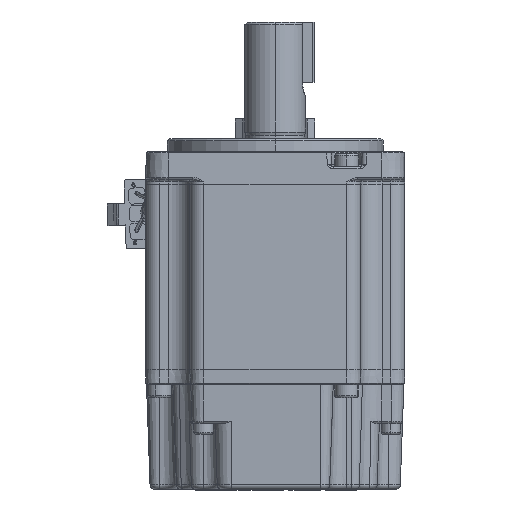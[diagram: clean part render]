
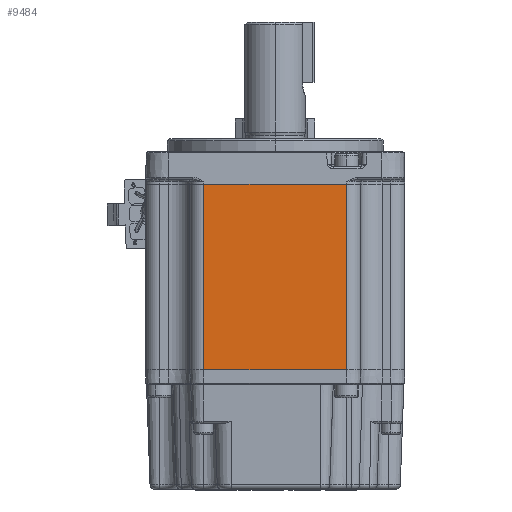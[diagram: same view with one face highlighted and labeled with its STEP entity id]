
A CAD part, front view. The second image highlights one B-rep face of the part: STEP entity #9484.
In plain terms, the highlighted planar face has unit normal (0, -1, 0).
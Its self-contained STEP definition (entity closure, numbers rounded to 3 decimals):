
#108 = AXIS2_PLACEMENT_3D ( 'NONE', #48350, #2585, #31753 ) ;
#2460 = VECTOR ( 'NONE', #15525, 1000. ) ;
#2585 = DIRECTION ( 'NONE',  ( 0., 1., 0. ) ) ;
#2620 = EDGE_CURVE ( 'NONE', #19328, #8138, #42318, .T. ) ;
#2950 = DIRECTION ( 'NONE',  ( 1., 0., 0. ) ) ;
#4135 = VERTEX_POINT ( 'NONE', #51026 ) ;
#5705 = VECTOR ( 'NONE', #28071, 1000. ) ;
#8138 = VERTEX_POINT ( 'NONE', #44695 ) ;
#9014 = VECTOR ( 'NONE', #2950, 1000. ) ;
#9484 = ADVANCED_FACE ( 'NONE', ( #24583 ), #35754, .F. ) ;
#10620 = ORIENTED_EDGE ( 'NONE', *, *, #41130, .F. ) ;
#15525 = DIRECTION ( 'NONE',  ( 0., 0., -1. ) ) ;
#16799 = LINE ( 'NONE', #23915, #5705 ) ;
#19082 = CARTESIAN_POINT ( 'NONE',  ( -16.551, -30., -21.45 ) ) ;
#19328 = VERTEX_POINT ( 'NONE', #41427 ) ;
#21201 = ORIENTED_EDGE ( 'NONE', *, *, #44883, .T. ) ;
#23915 = CARTESIAN_POINT ( 'NONE',  ( 16.551, -30., 22.45 ) ) ;
#24583 = FACE_OUTER_BOUND ( 'NONE', #31603, .T. ) ;
#25527 = EDGE_CURVE ( 'NONE', #30594, #4135, #52046, .T. ) ;
#28071 = DIRECTION ( 'NONE',  ( 0., 0., -1. ) ) ;
#29208 = ORIENTED_EDGE ( 'NONE', *, *, #2620, .F. ) ;
#30594 = VERTEX_POINT ( 'NONE', #46612 ) ;
#31603 = EDGE_LOOP ( 'NONE', ( #29208, #10620, #35821, #21201 ) ) ;
#31753 = DIRECTION ( 'NONE',  ( -1., 0., 0. ) ) ;
#33754 = DIRECTION ( 'NONE',  ( -1., 0., 0. ) ) ;
#35754 = PLANE ( 'NONE',  #108 ) ;
#35821 = ORIENTED_EDGE ( 'NONE', *, *, #25527, .F. ) ;
#40306 = CARTESIAN_POINT ( 'NONE',  ( -16.551, -30., 21.45 ) ) ;
#41130 = EDGE_CURVE ( 'NONE', #4135, #19328, #16799, .T. ) ;
#41427 = CARTESIAN_POINT ( 'NONE',  ( 16.551, -30., -21.45 ) ) ;
#42318 = LINE ( 'NONE', #19082, #42791 ) ;
#42791 = VECTOR ( 'NONE', #33754, 1000. ) ;
#44679 = CARTESIAN_POINT ( 'NONE',  ( -16.551, -30., 22.45 ) ) ;
#44695 = CARTESIAN_POINT ( 'NONE',  ( -16.551, -30., -21.45 ) ) ;
#44883 = EDGE_CURVE ( 'NONE', #30594, #8138, #46836, .T. ) ;
#46612 = CARTESIAN_POINT ( 'NONE',  ( -16.551, -30., 21.45 ) ) ;
#46836 = LINE ( 'NONE', #44679, #2460 ) ;
#48350 = CARTESIAN_POINT ( 'NONE',  ( -16.551, -30., 22.45 ) ) ;
#51026 = CARTESIAN_POINT ( 'NONE',  ( 16.551, -30., 21.45 ) ) ;
#52046 = LINE ( 'NONE', #40306, #9014 ) ;
